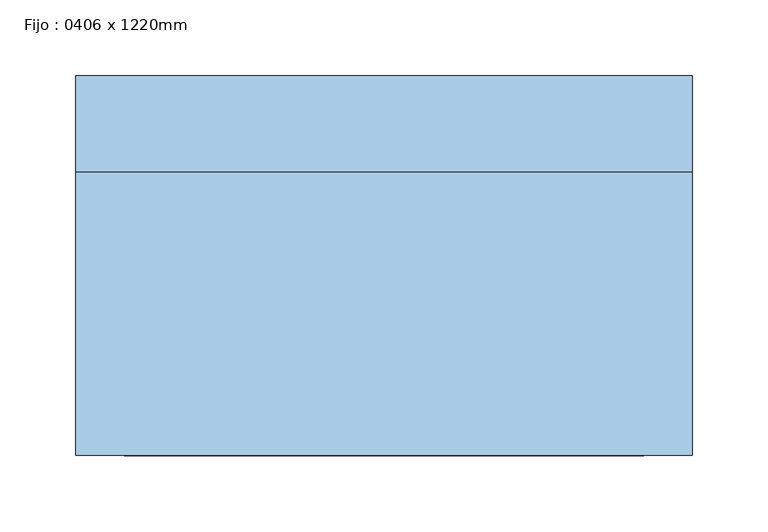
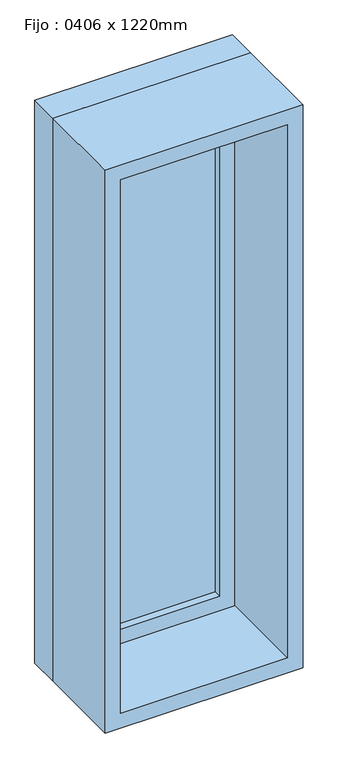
"""IFC4 building model written with IfcOpenShell, lengths in millimetres: window geometry, Fijo : 0406 x 1220mm."""

from ifc_helpers import new_model, si_unit, frame, origin, place, context, project, spatial, polyline, outline, extrude, source, transform, mapped, element, save


def fijo_0406_x_1220mm_b9d84f0b(model_context):
    return source(origin(), model_context, "Body", "SweptSolid", [
        extrude(outline(polyline([(-140.0, 103.0), (140.0, 103.0), (140.0, 91.0), (-140.0, 91.0), (-140.0, 103.0)])), frame((0.0, 0.0, 978.0), z_axis=(0.0, 0.0, 1.0), x_axis=(1.0, 0.0, 0.0)), (0.0, 0.0, 1.0), 1094.0),
        extrude(outline(polyline([(2116.0, -184.0), (934.0, -184.0), (934.0, 184.0), (2116.0, 184.0), (2116.0, -184.0)]), holes=[polyline([(2072.0, -140.0), (2072.0, 140.0), (978.0, 140.0), (978.0, -140.0), (2072.0, -140.0)])]), frame((0.0, 75.0, 0.0), z_axis=(0.0, 1.0, 0.0), x_axis=(0.0, 0.0, 1.0)), (0.0, 0.0, 1.0), 44.0),
        extrude(outline(polyline([(2135.0, -203.0), (915.0, -203.0), (915.0, 203.0), (2135.0, 203.0), (2135.0, -203.0)]), holes=[polyline([(2116.0, -184.0), (2116.0, 184.0), (934.0, 184.0), (934.0, -184.0), (2116.0, -184.0)])]), frame((0.0, 75.0, 0.0), z_axis=(0.0, 1.0, 0.0), x_axis=(0.0, 0.0, 1.0)), (0.0, 0.0, 1.0), 63.0),
        extrude(outline(polyline([(2135.0, -203.0), (915.0, -203.0), (915.0, 203.0), (2135.0, 203.0), (2135.0, -203.0)]), holes=[polyline([(2103.0, -171.0), (2103.0, 171.0), (947.0, 171.0), (947.0, -171.0), (2103.0, -171.0)])]), frame((0.0, -112.0, 0.0), z_axis=(0.0, 1.0, 0.0), x_axis=(0.0, 0.0, 1.0)), (0.0, 0.0, 1.0), 187.0),
    ])


if __name__ == "__main__":
    model = new_model("IFC4")
    model_context = context("Model", 3, world=origin())
    ifc_project = project(units=[si_unit("LENGTHUNIT", "METRE", prefix="MILLI")], contexts=[model_context])
    site = spatial("IfcSite", under=ifc_project)
    building = spatial("IfcBuilding", under=site)
    placement = place(None, origin())
    fijo_0406_x_1220mm_shape = fijo_0406_x_1220mm_b9d84f0b(model_context)
    element("IfcWindow", 1, ObjectType="Fijo : 0406 x 1220mm", at=placement, inside=building, context=model_context, shape_type="MappedRepresentation", body=[
        mapped(fijo_0406_x_1220mm_shape, transform((0.0, 0.0, 0.0), x_axis=(1.0, 0.0, 0.0), y_axis=(0.0, 1.0, 0.0), z_axis=(0.0, 0.0, 1.0))),
    ])
    save(model, "model.ifc")
